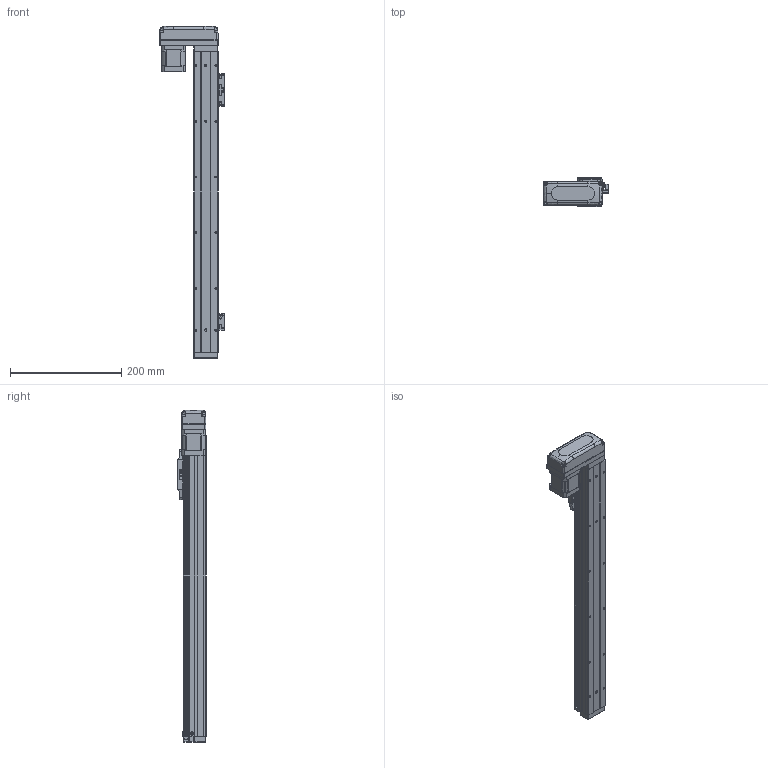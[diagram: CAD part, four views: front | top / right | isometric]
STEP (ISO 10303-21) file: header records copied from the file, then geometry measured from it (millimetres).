
FILE_DESCRIPTION (( 'STEP AP203' ), '1' );
FILE_NAME ('GTH4-400-BR-B42-C4.step', '2023-02-14T00:26:20', ( '微软用户' ), ( '微软中国' ), 'SwSTEP 2.0', 'SolidWorks 2020', '' );
FILE_SCHEMA (( 'CONFIG_CONTROL_DESIGN' ));
Length unit declared in the file: millimetre
Products named in the file (19): GBT96.1-2002 3×0.8; BTH50-026; BTH-M3X5X6; BTH40-022; 42CM06; GBT70.1-2000 M3×16; GBT 70.1-M2.5×6; GTH4-400-BR-B42-C4; BTH50-028; BTH40-004; BTH50-023; BTH40-013; BTH40-001-50_BTH40-001-400; BTH50-024; GBT 70.3-M3℅6; BTH40-003; GBT 70.1-M3℅6; BTH40-027-1; BTH40-006
Assembly tree (47 placements, depth 2):
  GTH4-400-BR-B42-C4
    BTH40-001-50_BTH40-001-400
    BTH40-003
    BTH40-006
    BTH-M3X5X6  x8
    GBT70.1-2000 M3×16  x4
    BTH50-028  x2
    BTH50-023  x3
    BTH50-024  x3
    GBT 70.1-M3℅6  x6
    GBT96.1-2002 3×0.8  x6
    BTH40-022
    GBT 70.1-M2.5×6  x2
    BTH40-004
    BTH40-013
    GBT 70.3-M3℅6  x4
    BTH40-027-1
    BTH50-026
    42CM06
Bounding box: 116.2 x 52 x 596 mm (x, y, z)
Volume: 1077404.5 mm3; surface area: 218510.4 mm2
Topology: 56 solids, 56 shells, 3335 faces, 7772 edges, 4646 vertices
Faces by surface type: cone 1508, plane 1076, cylinder 573, torus 124, bspline 42, sphere 12
Entity records: 77890 total; most frequent: CARTESIAN_POINT 14041, DIRECTION 13845, ORIENTED_EDGE 12190, EDGE_CURVE 6095, AXIS2_PLACEMENT_3D 5313, VERTEX_POINT 3633, LINE 3219, VECTOR 3219
